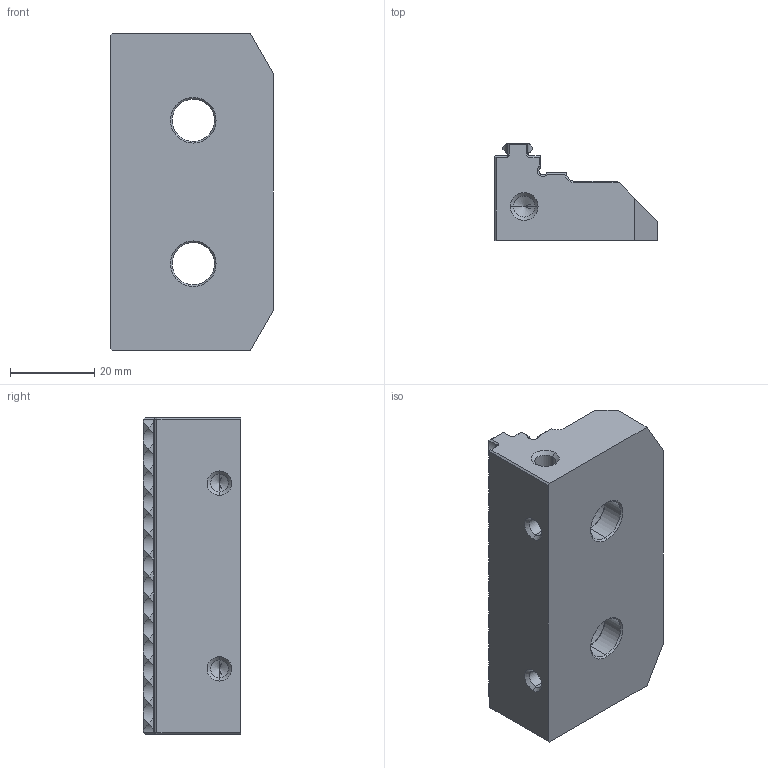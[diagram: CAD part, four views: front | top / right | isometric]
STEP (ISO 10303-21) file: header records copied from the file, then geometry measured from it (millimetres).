
FILE_DESCRIPTION (( 'STEP AP203' ), '1' );
FILE_NAME ('61M856729.STEP', '2022-07-22T04:35:22', ( '' ), ( '' ), 'SwSTEP 2.0', 'SolidWorks 2020', '' );
FILE_SCHEMA (( 'CONFIG_CONTROL_DESIGN' ));
Length unit declared in the file: millimetre
Products named in the file (1): 61M856729
Bounding box: 38.6 x 23 x 75 mm (x, y, z)
Volume: 38295.8 mm3; surface area: 11417.8 mm2
Topology: 1 solids, 1 shells, 272 faces, 757 edges, 483 vertices
Faces by surface type: plane 172, cylinder 55, cone 41, bspline 4
Entity records: 9569 total; most frequent: CARTESIAN_POINT 3023, ORIENTED_EDGE 1498, DIRECTION 1214, EDGE_CURVE 749, VERTEX_POINT 483, AXIS2_PLACEMENT_3D 414, VECTOR 386, LINE 386
